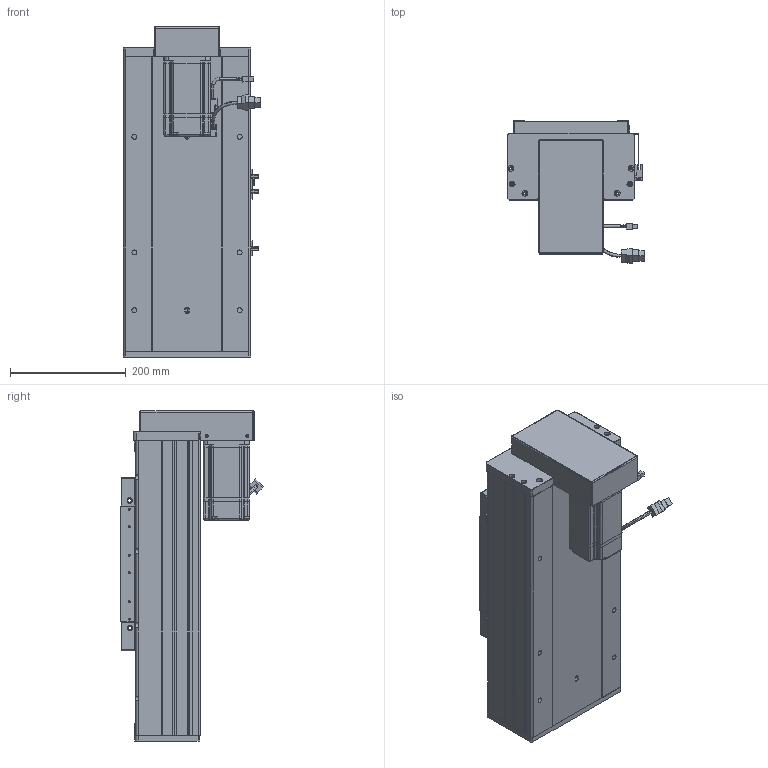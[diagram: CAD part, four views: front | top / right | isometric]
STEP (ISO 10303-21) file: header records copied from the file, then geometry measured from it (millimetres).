
FILE_DESCRIPTION (( 'STEP AP203' ), '1' );
FILE_NAME ('RY220F-L2525-300-BK.SLDASM_100.step', '2022-07-04T01:20:09', ( '' ), ( '' ), 'SwSTEP 2.0', 'SolidWorks 2016', '' );
FILE_SCHEMA (( 'CONFIG_CONTROL_DESIGN' ));
Length unit declared in the file: millimetre
Products named in the file (15): RY220狟殏萇儂欶; RY220F-滅鳥奻裔; RY220F蛌殏菁釱-300_100; 覜茼ん672; RY220F臏賑釱25-32佪裝; RY220F-祥凄詩湍-蛌殏-300_100; 怢湛750W_ECMA-CX0807ES; RY220F綴裔啣; 滅袉蝶18-24; 侐源滅袉蝶; RY220狟殏萇儂假蚾啣; RY220F-詩湍揤踡輸; RY220F-672覜茼んえ; RY220F-蛌殏奻裔啣-300_100; RY220F-L2525-300-BK.SLDASM_100
Assembly tree (21 placements, depth 2):
  RY220F-L2525-300-BK.SLDASM_100
    RY220F蛌殏菁釱-300_100
    RY220F-蛌殏奻裔啣-300_100  x2
    怢湛750W_ECMA-CX0807ES
    RY220F臏賑釱25-32佪裝
    RY220F-滅鳥奻裔
    滅袉蝶18-24  x3
    RY220F綴裔啣
    RY220F-祥凄詩湍-蛌殏-300_100
    RY220F-詩湍揤踡輸  x2
    覜茼ん672  x3
    RY220F-672覜茼んえ
    侐源滅袉蝶  x2
    RY220狟殏萇儂假蚾啣
    RY220狟殏萇儂欶
Bounding box: 237.27 x 247.24 x 571 mm (x, y, z)
Volume: 6675327.4 mm3; surface area: 1670550.2 mm2
Topology: 22 solids, 22 shells, 2101 faces, 5734 edges, 3619 vertices
Faces by surface type: cylinder 908, plane 906, cone 220, bspline 41, sphere 16, torus 10
Entity records: 64229 total; most frequent: CARTESIAN_POINT 17948, ORIENTED_EDGE 9442, DIRECTION 8967, EDGE_CURVE 4721, AXIS2_PLACEMENT_3D 3131, VERTEX_POINT 3061, VECTOR 2705, LINE 2705
